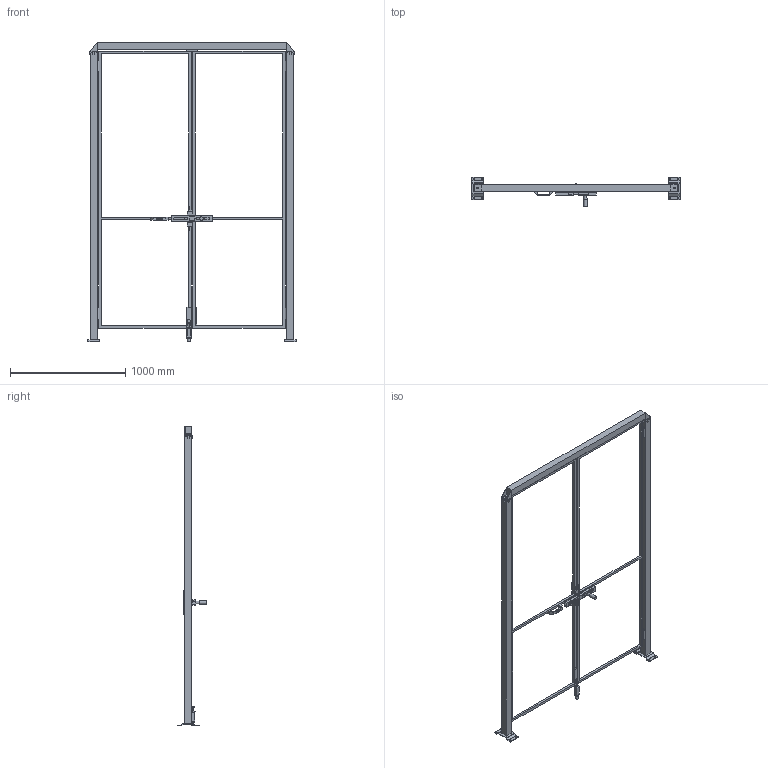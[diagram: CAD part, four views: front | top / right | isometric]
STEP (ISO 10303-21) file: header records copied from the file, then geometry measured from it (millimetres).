
FILE_DESCRIPTION(/* description */ (''),/* implementation_level */ '2;1');
FILE_NAME(/* name */ 'C:\SafeGuarding\ELABORATI\VZOR§DVOUKŘÍDLÉ_2025-02-03-08-32-46.stp',/* time_stamp */ '2025-02-03T08:32:48+01:00',/* author */ ('admin'),/* organization */ (''),/* preprocessor_version */ 'ST-DEVELOPER v18.1',/* originating_system */ 'AutoCAD Mechanical',/* authorisation */ '');
FILE_SCHEMA (('AUTOMOTIVE_DESIGN { 1 0 10303 214 3 1 1 }'));
Length unit declared in the file: millimetre
Products named in the file (5): Product; *U4; DATI_PORTA; P_VFMA.ME60SDU.2520; VFPA.REPE2008002400
Assembly tree (6 placements, depth 2):
  Product
    P_VFMA.ME60SDU.2520  x2
    *U4
    DATI_PORTA
    VFPA.REPE2008002400  x2
Bounding box: 1805 x 255.79 x 2600.5 mm (x, y, z)
Volume: 30819034.6 mm3; surface area: 3314967.4 mm2
Topology: 27 solids, 38 shells, 396 faces, 1306 edges, 1202 vertices
Faces by surface type: plane 352, cylinder 42, cone 2
Full cylindrical faces by diameter (mm): 11 x25, 12 x1, 14 x2, 24 x1, 30 x1
Entity records: 11712 total; most frequent: CARTESIAN_POINT 2434, DIRECTION 1771, ORIENTED_EDGE 1700, EDGE_CURVE 899, LINE 825, VECTOR 825, VERTEX_POINT 635, AXIS2_PLACEMENT_3D 473
